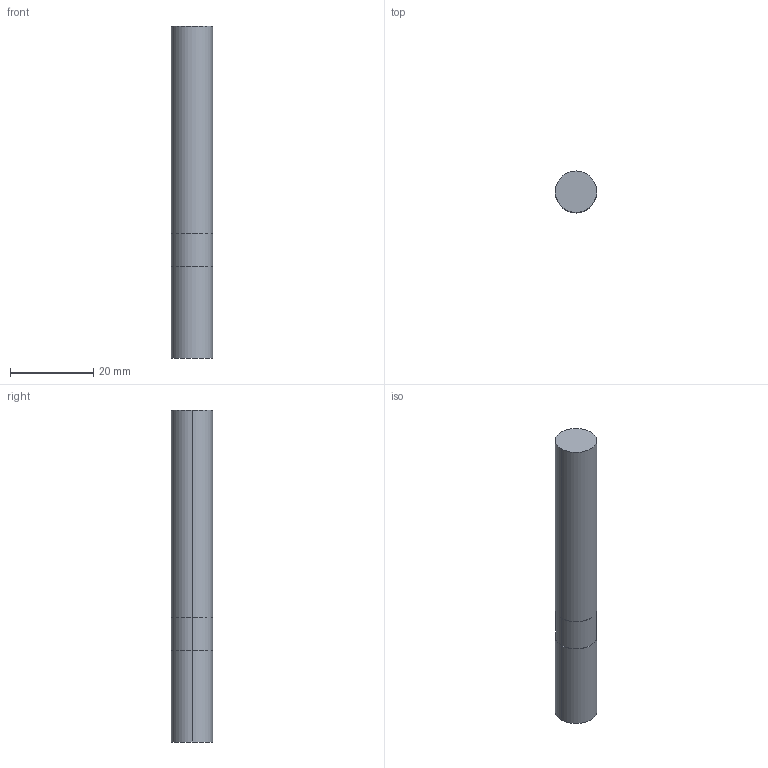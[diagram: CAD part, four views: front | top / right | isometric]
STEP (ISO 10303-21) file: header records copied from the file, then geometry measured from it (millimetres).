
FILE_DESCRIPTION(('STEP AP214'),'1');
FILE_NAME('cctmp_85923CCF-2427-4566-959C-109FECD98574_2020_09_30_16_11_17_0252..stp','2020-09-30T14:11:17',('Meusburger Georg GmbH & Co KG'),('CADClick - www.CADClick.com'),'Spatial InterOp 3D',' ','unknown authorization');
FILE_SCHEMA(('AUTOMOTIVE_DESIGN { 1 0 10303 214 1 1 1 1 }'));
Length unit declared in the file: millimetre
Products named in the file (1): WZF13746_10
Bounding box: 10 x 10 x 80 mm (x, y, z)
Volume: 6270.7 mm3; surface area: 2671 mm2
Topology: 1 solids, 1 shells, 10 faces, 18 edges, 12 vertices
Faces by surface type: cylinder 6, plane 4
Entity records: 358 total; most frequent: DIRECTION 52, CARTESIAN_POINT 41, ORIENTED_EDGE 36, AXIS2_PLACEMENT_3D 23, EDGE_CURVE 18, EDGE_LOOP 12, VERTEX_POINT 12, CIRCLE 12
